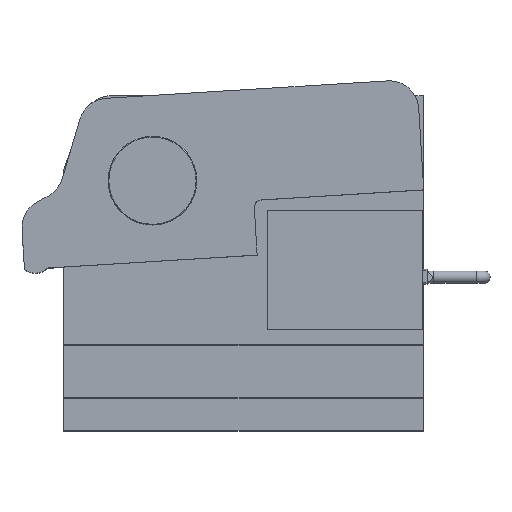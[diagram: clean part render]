
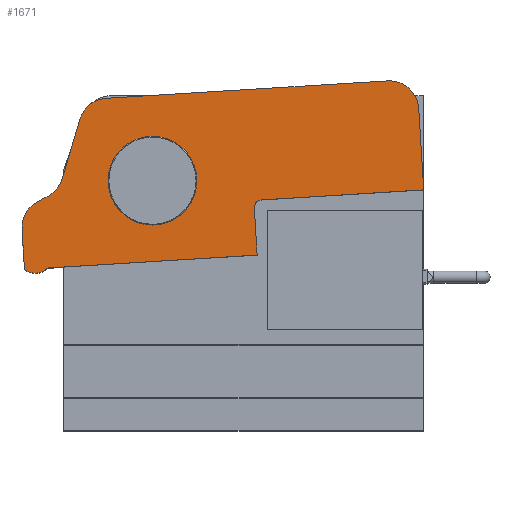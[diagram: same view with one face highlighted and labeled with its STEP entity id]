
A CAD part, top view. The second image highlights one B-rep face of the part: STEP entity #1671.
In plain terms, the highlighted planar face has unit normal (0, 0, 1).
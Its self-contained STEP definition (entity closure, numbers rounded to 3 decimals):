
#33=FACE_BOUND('',#217,.T.);
#51=PLANE('',#1815);
#119=FACE_OUTER_BOUND('',#216,.T.);
#216=EDGE_LOOP('',(#1172,#1173,#1174,#1175,#1176,#1177,#1178,#1179,#1180,
#1181,#1182,#1183,#1184,#1185));
#217=EDGE_LOOP('',(#1186));
#307=LINE('',#2514,#456);
#316=LINE('',#2540,#465);
#323=LINE('',#2554,#472);
#328=LINE('',#2565,#477);
#337=LINE('',#2582,#486);
#340=LINE('',#2587,#489);
#341=LINE('',#2592,#490);
#342=LINE('',#2596,#491);
#456=VECTOR('',#2034,10.);
#465=VECTOR('',#2057,10.);
#472=VECTOR('',#2068,10.);
#477=VECTOR('',#2075,10.);
#486=VECTOR('',#2086,10.);
#489=VECTOR('',#2091,10.);
#490=VECTOR('',#2096,10.);
#491=VECTOR('',#2099,10.);
#594=CIRCLE('',#1767,29.975);
#616=CIRCLE('',#1802,20.);
#618=CIRCLE('',#1806,5.);
#621=CIRCLE('',#1816,20.);
#622=CIRCLE('',#1817,20.);
#623=CIRCLE('',#1818,20.);
#624=CIRCLE('',#1819,12.);
#670=VERTEX_POINT('',#2429);
#695=VERTEX_POINT('',#2498);
#696=VERTEX_POINT('',#2500);
#701=VERTEX_POINT('',#2511);
#702=VERTEX_POINT('',#2513);
#707=VERTEX_POINT('',#2524);
#708=VERTEX_POINT('',#2526);
#717=VERTEX_POINT('',#2552);
#721=VERTEX_POINT('',#2562);
#722=VERTEX_POINT('',#2564);
#729=VERTEX_POINT('',#2580);
#731=VERTEX_POINT('',#2589);
#732=VERTEX_POINT('',#2591);
#733=VERTEX_POINT('',#2593);
#734=VERTEX_POINT('',#2595);
#826=EDGE_CURVE('',#670,#670,#594,.T.);
#857=EDGE_CURVE('',#695,#696,#616,.T.);
#863=EDGE_CURVE('',#701,#702,#307,.T.);
#869=EDGE_CURVE('',#707,#708,#618,.T.);
#876=EDGE_CURVE('',#708,#701,#316,.T.);
#883=EDGE_CURVE('',#717,#695,#323,.T.);
#888=EDGE_CURVE('',#721,#722,#328,.T.);
#897=EDGE_CURVE('',#729,#707,#337,.T.);
#900=EDGE_CURVE('',#696,#729,#340,.T.);
#901=EDGE_CURVE('',#722,#717,#621,.T.);
#902=EDGE_CURVE('',#731,#721,#622,.T.);
#903=EDGE_CURVE('',#732,#731,#341,.T.);
#904=EDGE_CURVE('',#733,#732,#623,.T.);
#905=EDGE_CURVE('',#734,#733,#342,.T.);
#906=EDGE_CURVE('',#702,#734,#624,.T.);
#1172=ORIENTED_EDGE('',*,*,#900,.F.);
#1173=ORIENTED_EDGE('',*,*,#857,.F.);
#1174=ORIENTED_EDGE('',*,*,#883,.F.);
#1175=ORIENTED_EDGE('',*,*,#901,.F.);
#1176=ORIENTED_EDGE('',*,*,#888,.F.);
#1177=ORIENTED_EDGE('',*,*,#902,.F.);
#1178=ORIENTED_EDGE('',*,*,#903,.F.);
#1179=ORIENTED_EDGE('',*,*,#904,.F.);
#1180=ORIENTED_EDGE('',*,*,#905,.F.);
#1181=ORIENTED_EDGE('',*,*,#906,.F.);
#1182=ORIENTED_EDGE('',*,*,#863,.F.);
#1183=ORIENTED_EDGE('',*,*,#876,.F.);
#1184=ORIENTED_EDGE('',*,*,#869,.F.);
#1185=ORIENTED_EDGE('',*,*,#897,.F.);
#1186=ORIENTED_EDGE('',*,*,#826,.T.);
#1671=ADVANCED_FACE('',(#119,#33),#51,.T.);
#1767=AXIS2_PLACEMENT_3D('',#2431,#1946,#1947);
#1802=AXIS2_PLACEMENT_3D('',#2501,#2025,#2026);
#1806=AXIS2_PLACEMENT_3D('',#2527,#2043,#2044);
#1815=AXIS2_PLACEMENT_3D('',#2586,#2089,#2090);
#1816=AXIS2_PLACEMENT_3D('',#2588,#2092,#2093);
#1817=AXIS2_PLACEMENT_3D('',#2590,#2094,#2095);
#1818=AXIS2_PLACEMENT_3D('',#2594,#2097,#2098);
#1819=AXIS2_PLACEMENT_3D('',#2597,#2100,#2101);
#1946=DIRECTION('center_axis',(0.,0.,
-1.));
#1947=DIRECTION('ref_axis',(0.869,-0.495,0.));
#2025=DIRECTION('center_axis',(0.,0.,
-1.));
#2026=DIRECTION('ref_axis',(0.662,0.749,0.));
#2034=DIRECTION('',(-0.998,-0.062,0.));
#2043=DIRECTION('center_axis',(0.,0.,
1.));
#2044=DIRECTION('ref_axis',(-0.062,0.998,0.));
#2057=DIRECTION('',(0.062,-0.998,0.));
#2068=DIRECTION('',(0.998,0.062,0.));
#2075=DIRECTION('',(0.283,0.959,0.));
#2086=DIRECTION('',(-0.998,-0.062,0.));
#2089=DIRECTION('center_axis',(0.,0.,
1.));
#2090=DIRECTION('ref_axis',(0.062,-0.998,0.));
#2091=DIRECTION('',(0.062,-0.998,0.));
#2092=DIRECTION('center_axis',(0.,0.,
-1.));
#2093=DIRECTION('ref_axis',(-0.623,0.782,0.));
#2094=DIRECTION('center_axis',(0.,0.,
1.));
#2095=DIRECTION('ref_axis',(-0.478,0.879,0.));
#2096=DIRECTION('',(0.879,0.478,0.));
#2097=DIRECTION('center_axis',(0.,0.,
-1.));
#2098=DIRECTION('ref_axis',(-0.875,0.484,0.));
#2099=DIRECTION('',(-0.062,0.998,0.));
#2100=DIRECTION('center_axis',(0.,0.,
-1.));
#2101=DIRECTION('ref_axis',(-0.619,-0.785,0.));
#2429=CARTESIAN_POINT('',(-87.3,70.58,65.));
#2431=CARTESIAN_POINT('Origin',(-61.25,55.75,65.));
#2498=CARTESIAN_POINT('',(97.394,123.163,65.));
#2500=CARTESIAN_POINT('',(118.59,104.435,65.));
#2501=CARTESIAN_POINT('Origin',(98.628,103.201,65.));
#2511=CARTESIAN_POINT('',(9.483,5.517,65.));
#2513=CARTESIAN_POINT('',(-131.81,-3.214,65.));
#2514=CARTESIAN_POINT('',(-3.773,4.698,65.));
#2524=CARTESIAN_POINT('',(12.191,42.755,65.));
#2526=CARTESIAN_POINT('',(7.509,37.456,65.));
#2527=CARTESIAN_POINT('Origin',(12.5,37.764,65.));
#2540=CARTESIAN_POINT('',(6.815,48.685,65.));
#2552=CARTESIAN_POINT('',(-92.401,111.435,65.));
#2554=CARTESIAN_POINT('',(49.361,120.195,65.));
#2562=CARTESIAN_POINT('',(-122.127,57.283,65.));
#2564=CARTESIAN_POINT('',(-110.348,97.141,65.));
#2565=CARTESIAN_POINT('',(-103.171,121.425,65.));
#2580=CARTESIAN_POINT('',(121.982,49.539,65.));
#2582=CARTESIAN_POINT('',(121.982,49.539,65.));
#2586=CARTESIAN_POINT('Origin',(120.903,67.006,65.));
#2587=CARTESIAN_POINT('',(120.903,67.006,65.));
#2588=CARTESIAN_POINT('Origin',(-91.168,91.473,65.));
#2589=CARTESIAN_POINT('',(-131.753,45.381,65.));
#2590=CARTESIAN_POINT('Origin',(-141.307,62.951,65.));
#2591=CARTESIAN_POINT('',(-138.969,41.457,65.));
#2592=CARTESIAN_POINT('',(-29.716,100.865,65.));
#2593=CARTESIAN_POINT('',(-149.376,22.653,65.));
#2594=CARTESIAN_POINT('Origin',(-129.415,23.887,65.));
#2595=CARTESIAN_POINT('',(-147.721,-4.142,65.));
#2596=CARTESIAN_POINT('',(-151.079,50.199,65.));
#2597=CARTESIAN_POINT('Origin',(-140.288,5.279,65.));
